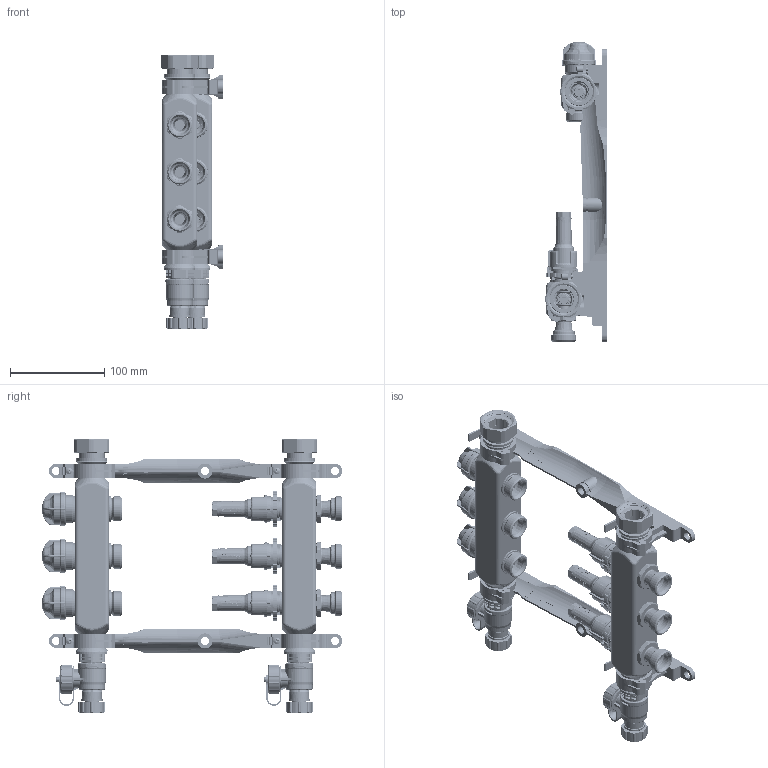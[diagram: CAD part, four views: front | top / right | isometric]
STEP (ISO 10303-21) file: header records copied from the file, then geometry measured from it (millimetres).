
FILE_DESCRIPTION (( 'STEP AP214' ), '1' );
FILE_NAME ('ProCalida_VA_1C_3obiegi.STEP', '2023-10-24T07:06:35', ( '' ), ( '' ), 'SwSTEP 2.0', 'SolidWorks 2022', '' );
FILE_SCHEMA (( 'AUTOMOTIVE_DESIGN' ));
Length unit declared in the file: millimetre
Products named in the file (58): ISO 7049-ST3.5x25-C-H_Blechschrauben_0_3; 801 018 3200_O-Ring _X_F818,0x3,0mm EPDM 70_X_B15 IRHD perox; Druckfeder _X_F86,1x15,3 d=0,8_05 01 000216_0; Lasche unten_2; 05 01 000037_Haltelasche f_X_FCr Endmodul_0; LASCHE_2; 05 01 000428_Handrad Caradesign schwarz DFM; 05 01 000033_Verschlussdeckel G3_4 mit Zapfen_0; BEDRUCKUNG; Bewegung_Baugruppe; 801 000 0190_O-Ring _X_F89,0x2,0mm EPDM_0; Anschluss-Flach 3_4 Ni_011 030.115; O-RING 4X2 EPDM_801 000 0016_0; LAGER_05 01 000501; Anschlussnippel G1_2 - G3_4_Baugruppe; O-RING _X_F817x2,0 EPDM_801 000 0269; korp_end; O-RING_801 000 0177; ProCalida_VA_1C_3obiegi; DFM 0,5-4 l_min G1_2 KST EK_05 01 00 01; SCHRAUBKAPPE_05 01 000227; mid; bot; 801 000 0268_O-Ring _X_F86,0x2,10mm EPDM_0; 05 02 00 43_Verschlussdeckel G3_4 mit Lasche; _X_DCberwurfmutter G1_05 00 350408; Verschlussscheibe_05 01 000213_0; Lagerring _X_F826x2,4 EPDM 50_05 01 000501; 05 01 02 16_KFE-Hahn G3_4 Kunststoff o. Logoaufnahme_0; LASCHE; 801 018 3002_O-Ring _X_F818,0x3,0mm EPDM_0; 05 01000235_Einschraubk_X_F6rper G1_2; Lasche oben_2; Wandhalter _X_F832_05 01 000265_2; 801 018 3002_O-Ring _X_F818,0x3,0mm EPDM_0_2; 05 01 000945_Geh_X_E4use KFE G3_4 ohne Logoaufn.; 801 000 0237_O-Ring _X_F821,0x3,0mm EPDM; Hubvtl. M30x1,5AGxG1_2 KST VT gelb_05 01 01 60_0; 05 01 000035_Verschlussschraube; O-Ring _X_F818x2 EPDM_801 000 0177_2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
Assembly tree (75 placements, depth 6):
  ProCalida_VA_1C_3obiegi
    korp_end  x4
    mid  x2
    LAGER_05 01 000501  x4
    Wandhalter _X_F832_05 01 000265_2  x2
      Lasche oben_2
        Lasche oben_2
        ISO 7049-ST3.5x25-C-H_Blechschrauben_0_3
      Lasche unten_2
        Lasche unten_2
        ISO 7049-ST3.5x25-C-H_Blechschrauben_0_4
      Wandhalter K_X_F6rper _X_F832_05 01 000265_2
    Anschluss-Flach 3_4 Ni_011 030.115  x2
      T_X_DCLLE-FLACH_011 030.016
      SCHEIBE_011 030.018
      O-RING 21,82X3,53_801 000 0127
      _X_DCberwurfmutter G1_05 00 350408
    DFM 0,5-4 l_min G1_2 KST EK_05 01 00 01  x3
      Bewegung_Baugruppe_2
        SCHRAUBKAPPE BEDRUCKT_05 01 000227
          BEDRUCKUNG
          SCHRAUBKAPPE_05 01 000227
      O-RING_801 000 0177
      Einstellring Verteiler, schwarz_05 01 000181
      05 01 000428_Handrad Caradesign schwarz DFM
      05 01000235_Einschraubk_X_F6rper G1_2
    Verteiler oben_Baugruppe_2  x2
      Lagerring _X_F826x2,4 EPDM 50_05 01 000501
      05 01 02 16_KFE-Hahn G3_4 Kunststoff o. Logoaufnahme_0
        801 018 3002_O-Ring _X_F818,0x3,0mm EPDM_0
        801 018 3002_O-Ring _X_F818,0x3,0mm EPDM_0_2
        05 01 00 16_Verschlussschraube, komplett_0
          801 000 0190_O-Ring _X_F89,0x2,0mm EPDM_0
          801 000 0268_O-Ring _X_F86,0x2,10mm EPDM_0
        801 000 0237_O-Ring _X_F821,0x3,0mm EPDM
        05 02 00 43_Verschlussdeckel G3_4 mit Lasche
          05 01 000037_Haltelasche f_X_FCr Endmodul_0
            LASCHE
            LASCHE_2
            A
          05 01 000033_Verschlussdeckel G3_4 mit Zapfen_0
          801 018 3200_O-Ring _X_F818,0x3,0mm EPDM 70_X_B15 IRHD perox
        05 01 000035_Verschlussschraube
        Grundk_X_F6rper KFE-Hahn G3_4_05 01 000320_0
        05 01 000945_Geh_X_E4use KFE G3_4 ohne Logoaufn.
    Hubvtl. M30x1,5AGxG1_2 KST VT gelb_05 01 01 60_0  x3
      Verschlussscheibe_05 01 000213_0
      O-RING 4X2 EPDM_801 000 0016_0
      O-Ring _X_F84,0x2,0 EPDM_801 000 0016_0
      Bewegung_Baugruppe
        Druckfeder _X_F86,1x15,3 d=0,8_05 01 000216_0
      Stellmutter M30x1,5 IG grau_05 01 000183
      O-RING _X_F817x2,0 EPDM_801 000 0269
      Ventilk_X_F6rper M30x1,5 G1_2 AG Kst._05 01 000900
    bot  x3
    Anschlussnippel G1_2 - G3_4_Baugruppe  x3
      Einschraubst. G3_4xG1_2x40mm vern._05 02 000007
      O-Ring _X_F818x2 EPDM_801 000 0177_2
Bounding box: 65.98 x 318.7 x 291.22 mm (x, y, z)
Volume: 451305.2 mm3; surface area: 423865.1 mm2
Topology: 296 solids, 299 shells, 10525 faces, 27662 edges, 17822 vertices
Faces by surface type: plane 4266, cylinder 2912, cone 1736, bspline 1581, torus 30
Entity records: 218687 total; most frequent: CARTESIAN_POINT 84094, ORIENTED_EDGE 21240, DIRECTION 18576, EDGE_CURVE 10620, AXIS2_PLACEMENT_3D 7254, VERTEX_POINT 6864, EDGE_LOOP 4254, VECTOR 4068
